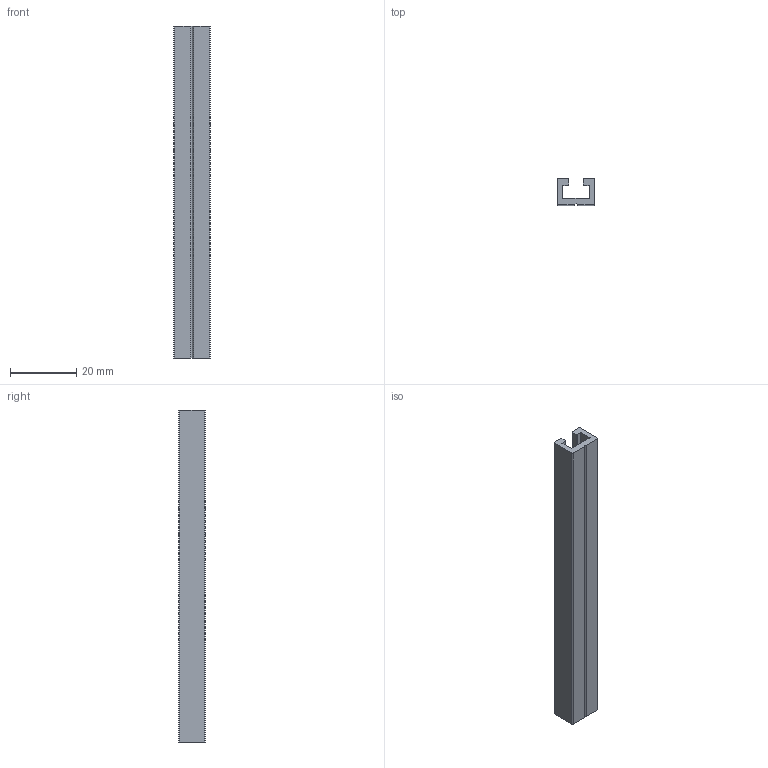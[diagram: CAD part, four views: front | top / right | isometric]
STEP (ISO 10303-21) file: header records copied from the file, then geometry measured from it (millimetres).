
FILE_DESCRIPTION (( 'STEP AP203' ), '1' );
FILE_NAME ('WSSNA04.STEP', '2024-02-19T12:14:37', ( '' ), ( '' ), 'SwSTEP 2.0', 'SolidWorks 2022', '' );
FILE_SCHEMA (( 'CONFIG_CONTROL_DESIGN' ));
Length unit declared in the file: millimetre
Products named in the file (1): WSSNA04
Bounding box: 11 x 8 x 100 mm (x, y, z)
Volume: 4664.3 mm3; surface area: 5748.9 mm2
Topology: 1 solids, 1 shells, 25 faces, 69 edges, 46 vertices
Faces by surface type: plane 17, cylinder 8
Entity records: 876 total; most frequent: CARTESIAN_POINT 141, ORIENTED_EDGE 138, DIRECTION 137, EDGE_CURVE 69, LINE 53, VECTOR 53, VERTEX_POINT 46, AXIS2_PLACEMENT_3D 42
